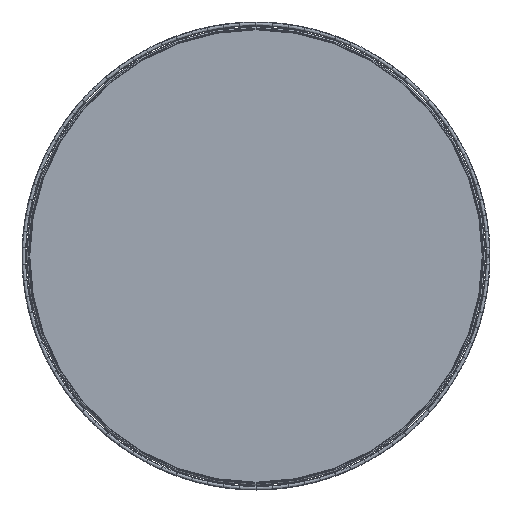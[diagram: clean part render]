
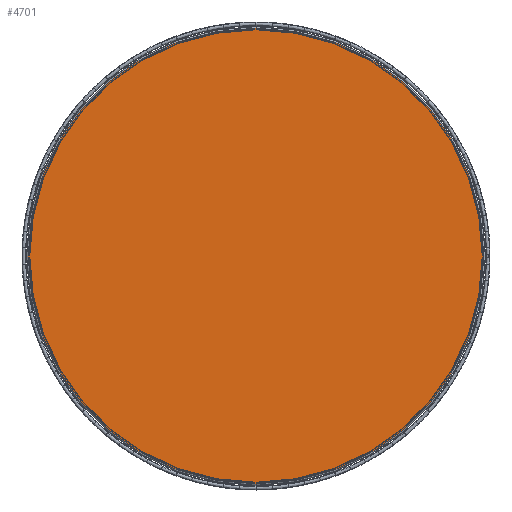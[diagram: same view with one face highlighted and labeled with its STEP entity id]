
A CAD part, front view. The second image highlights one B-rep face of the part: STEP entity #4701.
In plain terms, the highlighted planar face has unit normal (0, -1, 0).
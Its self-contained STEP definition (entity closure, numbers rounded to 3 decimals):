
#27 = DIRECTION ( 'NONE',  ( 0., -1., 0. ) ) ;
#825 = VERTEX_POINT ( 'NONE', #5333 ) ;
#873 = DIRECTION ( 'NONE',  ( 0., -1., 0. ) ) ;
#894 = VERTEX_POINT ( 'NONE', #1064 ) ;
#986 = AXIS2_PLACEMENT_3D ( 'NONE', #6534, #27, #1584 ) ;
#1064 = CARTESIAN_POINT ( 'NONE',  ( 0., -2.9, 390.5 ) ) ;
#1584 = DIRECTION ( 'NONE',  ( 0., 0., -1. ) ) ;
#2743 = FACE_OUTER_BOUND ( 'NONE', #5167, .T. ) ;
#2836 = CIRCLE ( 'NONE', #986, 390.5 ) ;
#3517 = CIRCLE ( 'NONE', #5317, 390.5 ) ;
#3572 = AXIS2_PLACEMENT_3D ( 'NONE', #4976, #4266, #5465 ) ;
#3607 = ORIENTED_EDGE ( 'NONE', *, *, #4731, .T. ) ;
#4051 = ORIENTED_EDGE ( 'NONE', *, *, #6560, .T. ) ;
#4266 = DIRECTION ( 'NONE',  ( 0., 1., 0. ) ) ;
#4565 = DIRECTION ( 'NONE',  ( 0., 0., -1. ) ) ;
#4701 = ADVANCED_FACE ( 'NONE', ( #2743 ), #5887, .F. ) ;
#4731 = EDGE_CURVE ( 'NONE', #894, #825, #2836, .T. ) ;
#4976 = CARTESIAN_POINT ( 'NONE',  ( 0., -2.9, 0. ) ) ;
#5167 = EDGE_LOOP ( 'NONE', ( #4051, #3607 ) ) ;
#5317 = AXIS2_PLACEMENT_3D ( 'NONE', #6756, #873, #4565 ) ;
#5333 = CARTESIAN_POINT ( 'NONE',  ( 0., -2.9, -390.5 ) ) ;
#5465 = DIRECTION ( 'NONE',  ( 0., 0., 1. ) ) ;
#5887 = PLANE ( 'NONE',  #3572 ) ;
#6534 = CARTESIAN_POINT ( 'NONE',  ( 0., -2.9, 0. ) ) ;
#6560 = EDGE_CURVE ( 'NONE', #825, #894, #3517, .T. ) ;
#6756 = CARTESIAN_POINT ( 'NONE',  ( 0., -2.9, 0. ) ) ;
